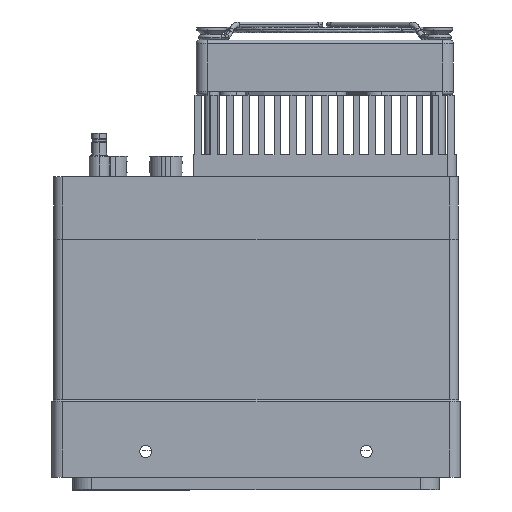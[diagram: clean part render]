
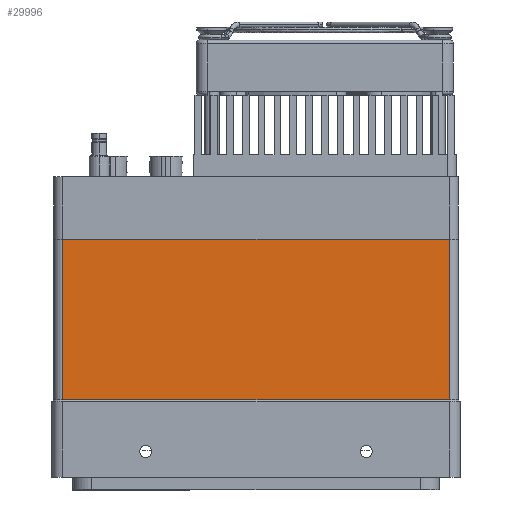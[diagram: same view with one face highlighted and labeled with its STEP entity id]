
A CAD part, left-side view. The second image highlights one B-rep face of the part: STEP entity #29996.
In plain terms, the highlighted planar face has unit normal (-1, 0, 0).
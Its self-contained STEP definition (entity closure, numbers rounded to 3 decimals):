
#2138 = DIRECTION ( 'NONE',  ( 0., -1., 0. ) ) ;
#2491 = CARTESIAN_POINT ( 'NONE',  ( -114.048, 81.934, 77.961 ) ) ;
#2577 = EDGE_CURVE ( 'NONE', #22354, #21430, #36323, .T. ) ;
#3191 = EDGE_CURVE ( 'NONE', #22354, #17427, #16431, .T. ) ;
#4438 = CARTESIAN_POINT ( 'NONE',  ( -114.048, 186.934, 77.961 ) ) ;
#4788 = AXIS2_PLACEMENT_3D ( 'NONE', #5287, #29443, #2138 ) ;
#5287 = CARTESIAN_POINT ( 'NONE',  ( -114.048, 79.434, 77.961 ) ) ;
#5649 = CARTESIAN_POINT ( 'NONE',  ( -114.048, 186.934, 77.961 ) ) ;
#7304 = VECTOR ( 'NONE', #36043, 1000. ) ;
#8520 = DIRECTION ( 'NONE',  ( 0., 1., 0. ) ) ;
#8884 = FACE_OUTER_BOUND ( 'NONE', #32813, .T. ) ;
#9584 = CARTESIAN_POINT ( 'NONE',  ( -114.048, 81.934, 77.961 ) ) ;
#11305 = DIRECTION ( 'NONE',  ( 0., 1., 0. ) ) ;
#13179 = VERTEX_POINT ( 'NONE', #26817 ) ;
#14566 = CARTESIAN_POINT ( 'NONE',  ( -114.048, 81.934, 121.661 ) ) ;
#15256 = LINE ( 'NONE', #5649, #7304 ) ;
#16431 = LINE ( 'NONE', #26540, #20681 ) ;
#17427 = VERTEX_POINT ( 'NONE', #4438 ) ;
#18118 = ORIENTED_EDGE ( 'NONE', *, *, #28306, .T. ) ;
#18599 = EDGE_CURVE ( 'NONE', #21430, #13179, #35587, .T. ) ;
#20045 = ORIENTED_EDGE ( 'NONE', *, *, #2577, .T. ) ;
#20229 = ORIENTED_EDGE ( 'NONE', *, *, #18599, .T. ) ;
#20681 = VECTOR ( 'NONE', #8520, 1000. ) ;
#20936 = VECTOR ( 'NONE', #11305, 1000. ) ;
#21430 = VERTEX_POINT ( 'NONE', #14566 ) ;
#22354 = VERTEX_POINT ( 'NONE', #2491 ) ;
#23450 = DIRECTION ( 'NONE',  ( 0., 0., 1. ) ) ;
#26540 = CARTESIAN_POINT ( 'NONE',  ( -114.048, 79.434, 77.961 ) ) ;
#26817 = CARTESIAN_POINT ( 'NONE',  ( -114.048, 186.934, 121.661 ) ) ;
#28306 = EDGE_CURVE ( 'NONE', #13179, #17427, #15256, .T. ) ;
#28756 = ORIENTED_EDGE ( 'NONE', *, *, #3191, .F. ) ;
#29219 = VECTOR ( 'NONE', #23450, 1000. ) ;
#29443 = DIRECTION ( 'NONE',  ( 1., 0., 0. ) ) ;
#29996 = ADVANCED_FACE ( 'NONE', ( #8884 ), #32360, .F. ) ;
#32360 = PLANE ( 'NONE',  #4788 ) ;
#32813 = EDGE_LOOP ( 'NONE', ( #28756, #20045, #20229, #18118 ) ) ;
#35587 = LINE ( 'NONE', #35837, #20936 ) ;
#35837 = CARTESIAN_POINT ( 'NONE',  ( -114.048, 79.434, 121.661 ) ) ;
#36043 = DIRECTION ( 'NONE',  ( 0., 0., -1. ) ) ;
#36323 = LINE ( 'NONE', #9584, #29219 ) ;
